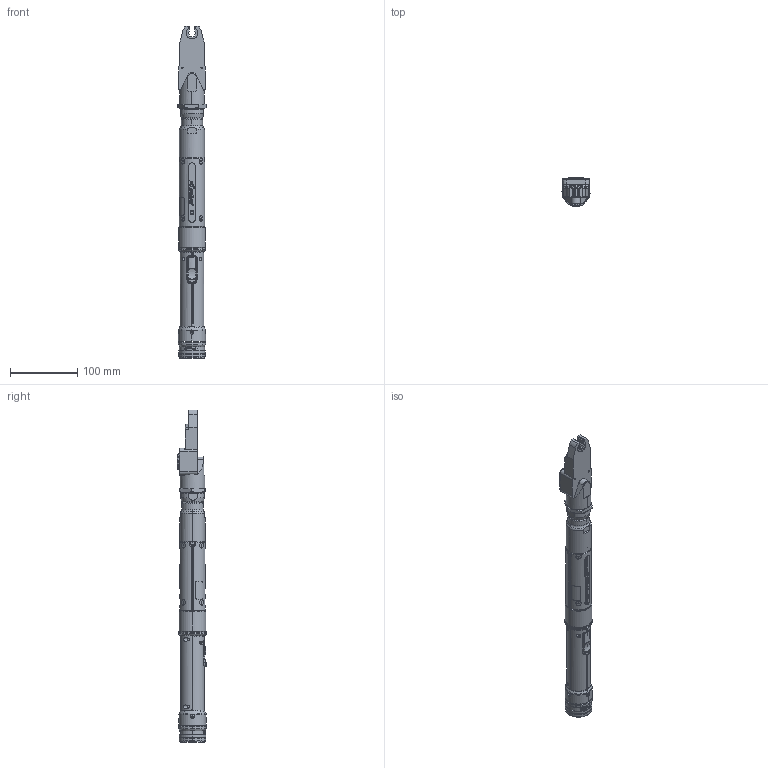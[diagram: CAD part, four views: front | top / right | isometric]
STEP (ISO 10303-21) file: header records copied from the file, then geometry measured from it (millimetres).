
FILE_DESCRIPTION (( 'STEP AP214' ), '1' );
FILE_NAME ('AET4AA22016C.STEP', '2022-08-19T17:46:44', ( '' ), ( '' ), 'SwSTEP 2.0', 'SolidWorks 2022', '' );
FILE_SCHEMA (( 'AUTOMOTIVE_DESIGN' ));
Length unit declared in the file: inch
Products named in the file (1): AET4AA22016C
Bounding box: 42.63 x 43.81 x 494.83 mm (x, y, z)
Surface area: 87422 mm2 (no closed solid volume)
Topology: 0 solids, 95 shells, 955 faces, 3169 edges, 2263 vertices
Faces by surface type: plane 338, cylinder 263, bspline 160, torus 104, cone 82, sphere 8
Entity records: 55265 total; most frequent: CARTESIAN_POINT 17090, DIRECTION 4940, ORIENTED_EDGE 4914, EDGE_CURVE 3165, VERTEX_POINT 2263, AXIS2_PLACEMENT_3D 1719, VECTOR 1502, LINE 1502
